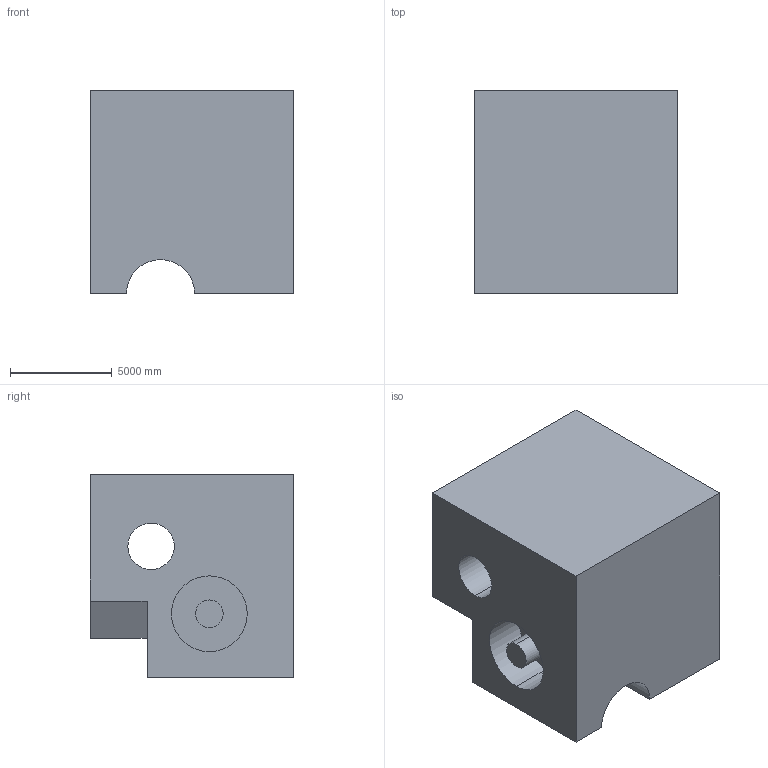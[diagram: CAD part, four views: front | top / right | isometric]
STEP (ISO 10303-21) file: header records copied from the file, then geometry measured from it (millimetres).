
FILE_DESCRIPTION (( 'STEP AP203' ), '1' );
FILE_NAME ('333.STEP', '2022-07-28T14:22:46', ( 'user' ), ( '' ), 'SwSTEP 2.0', 'SolidWorks 2021', '' );
FILE_SCHEMA (( 'CONFIG_CONTROL_DESIGN' ));
Length unit declared in the file: centimetre
Products named in the file (1): 333
Bounding box: 10000 x 10000 x 10000 mm (x, y, z)
Volume: 828147194930.4 mm3; surface area: 686300246.1 mm2
Topology: 1 solids, 1 shells, 19 faces, 45 edges, 30 vertices
Faces by surface type: plane 11, cylinder 8
Entity records: 636 total; most frequent: DIRECTION 101, CARTESIAN_POINT 95, ORIENTED_EDGE 90, EDGE_CURVE 45, AXIS2_PLACEMENT_3D 36, VERTEX_POINT 30, LINE 29, VECTOR 29
